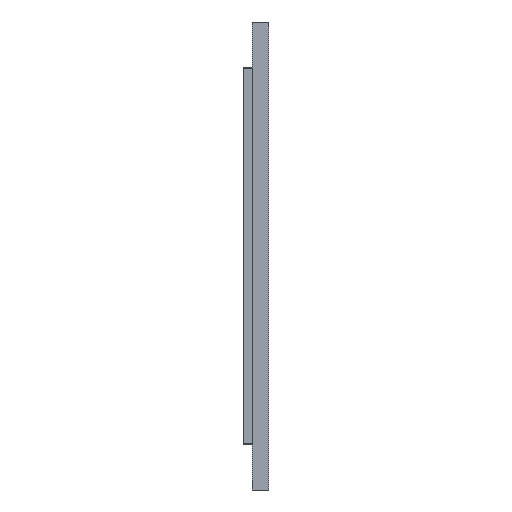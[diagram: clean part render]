
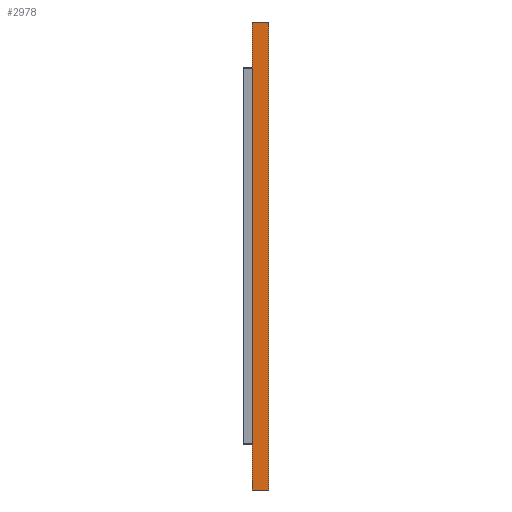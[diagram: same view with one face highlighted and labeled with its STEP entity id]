
A CAD part, left-side view. The second image highlights one B-rep face of the part: STEP entity #2978.
In plain terms, the highlighted planar face has unit normal (-1, 0, 0).
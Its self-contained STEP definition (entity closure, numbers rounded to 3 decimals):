
#23 = EDGE_LOOP ( 'NONE', ( #5626, #3393, #6327, #5294 ) ) ;
#195 = VECTOR ( 'NONE', #5134, 1000. ) ;
#223 = EDGE_CURVE ( 'NONE', #4108, #1513, #1758, .T. ) ;
#377 = AXIS2_PLACEMENT_3D ( 'NONE', #697, #6279, #6404 ) ;
#697 = CARTESIAN_POINT ( 'NONE',  ( 159.833, 261.697, 299.139 ) ) ;
#979 = DIRECTION ( 'NONE',  ( 0., 0., 1. ) ) ;
#993 = DIRECTION ( 'NONE',  ( 0., -1., 0. ) ) ;
#1091 = VERTEX_POINT ( 'NONE', #4024 ) ;
#1210 = CARTESIAN_POINT ( 'NONE',  ( 159.833, 261.697, 299.139 ) ) ;
#1314 = EDGE_CURVE ( 'NONE', #3134, #1091, #6334, .T. ) ;
#1513 = VERTEX_POINT ( 'NONE', #3330 ) ;
#1627 = CARTESIAN_POINT ( 'NONE',  ( 159.833, 261.697, 49.139 ) ) ;
#1758 = LINE ( 'NONE', #3841, #3608 ) ;
#1969 = PLANE ( 'NONE',  #377 ) ;
#2290 = DIRECTION ( 'NONE',  ( 0., 0., 1. ) ) ;
#2581 = CARTESIAN_POINT ( 'NONE',  ( 159.833, 261.697, 49.139 ) ) ;
#2978 = ADVANCED_FACE ( 'NONE', ( #4583 ), #1969, .F. ) ;
#3134 = VERTEX_POINT ( 'NONE', #2581 ) ;
#3330 = CARTESIAN_POINT ( 'NONE',  ( 159.833, 252.697, 299.139 ) ) ;
#3393 = ORIENTED_EDGE ( 'NONE', *, *, #223, .F. ) ;
#3561 = LINE ( 'NONE', #5674, #4431 ) ;
#3608 = VECTOR ( 'NONE', #993, 1000. ) ;
#3841 = CARTESIAN_POINT ( 'NONE',  ( 159.833, 261.697, 299.139 ) ) ;
#4024 = CARTESIAN_POINT ( 'NONE',  ( 159.833, 252.697, 49.139 ) ) ;
#4108 = VERTEX_POINT ( 'NONE', #1210 ) ;
#4431 = VECTOR ( 'NONE', #979, 1000. ) ;
#4468 = CARTESIAN_POINT ( 'NONE',  ( 159.833, 252.697, 299.139 ) ) ;
#4583 = FACE_OUTER_BOUND ( 'NONE', #23, .T. ) ;
#4908 = LINE ( 'NONE', #4468, #5262 ) ;
#5134 = DIRECTION ( 'NONE',  ( 0., -1., 0. ) ) ;
#5148 = EDGE_CURVE ( 'NONE', #1091, #1513, #4908, .T. ) ;
#5262 = VECTOR ( 'NONE', #2290, 1000. ) ;
#5294 = ORIENTED_EDGE ( 'NONE', *, *, #1314, .T. ) ;
#5626 = ORIENTED_EDGE ( 'NONE', *, *, #5148, .T. ) ;
#5674 = CARTESIAN_POINT ( 'NONE',  ( 159.833, 261.697, 299.139 ) ) ;
#6279 = DIRECTION ( 'NONE',  ( 1., 0., 0. ) ) ;
#6327 = ORIENTED_EDGE ( 'NONE', *, *, #6455, .F. ) ;
#6334 = LINE ( 'NONE', #1627, #195 ) ;
#6404 = DIRECTION ( 'NONE',  ( 0., 0., -1. ) ) ;
#6455 = EDGE_CURVE ( 'NONE', #3134, #4108, #3561, .T. ) ;
